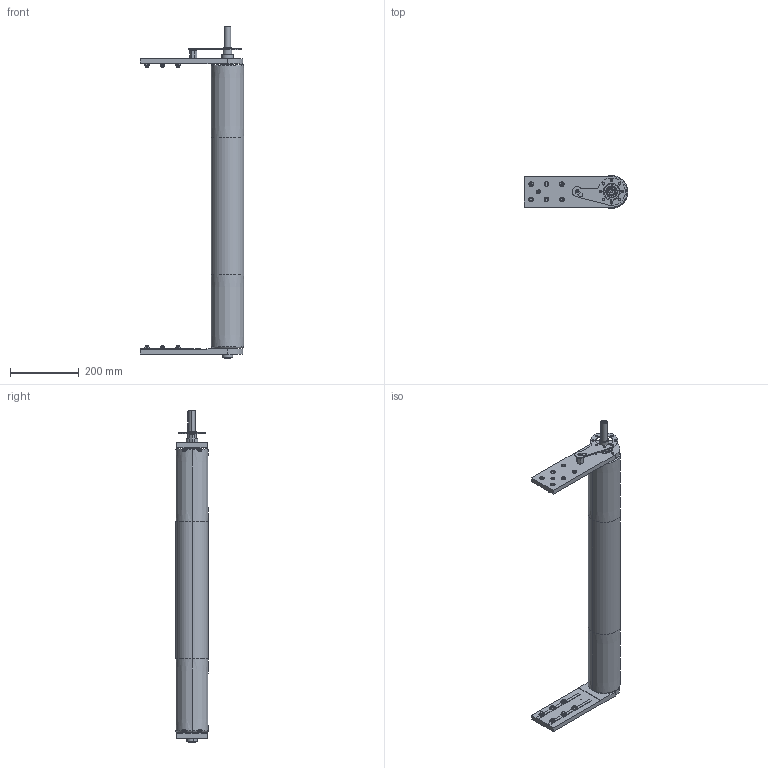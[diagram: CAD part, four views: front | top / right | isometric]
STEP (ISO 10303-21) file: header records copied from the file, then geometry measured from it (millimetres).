
FILE_DESCRIPTION (( 'STEP AP203' ), '1' );
FILE_NAME ('084.095.KD.44.800.STEP', '2015-11-12T09:58:58', ( '' ), ( '' ), 'SwSTEP 2.0', 'SolidWorks 2012', '' );
FILE_SCHEMA (( 'CONFIG_CONTROL_DESIGN' ));
Length unit declared in the file: millimetre
Products named in the file (1): 084.095.KD.44.800
Bounding box: 302.5 x 95 x 968.5 mm (x, y, z)
Surface area: 437730.4 mm2 (no closed solid volume)
Topology: 0 solids, 53 shells, 530 faces, 1640 edges, 1137 vertices
Faces by surface type: plane 299, cylinder 128, torus 52, cone 38, bspline 9, sphere 4
Entity records: 19304 total; most frequent: CARTESIAN_POINT 4697, DIRECTION 3085, ORIENTED_EDGE 2708, EDGE_CURVE 1631, VERTEX_POINT 1132, AXIS2_PLACEMENT_3D 1128, VECTOR 829, LINE 829
